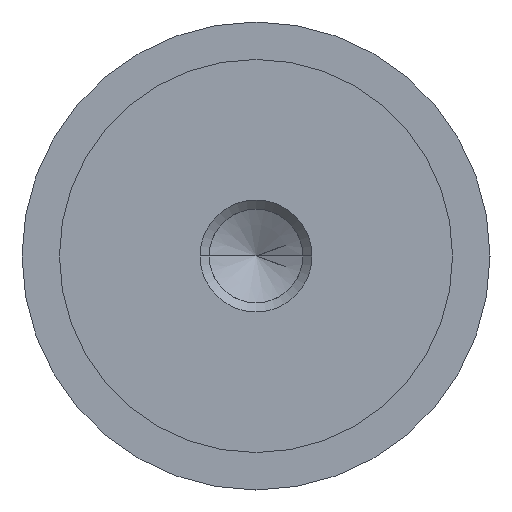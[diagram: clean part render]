
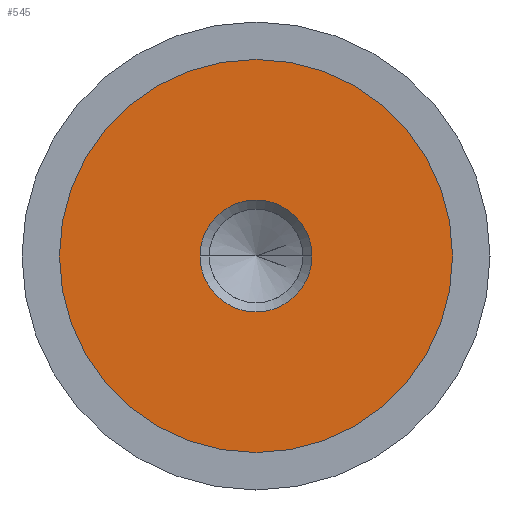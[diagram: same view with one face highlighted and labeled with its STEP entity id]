
A CAD part, left-side view. The second image highlights one B-rep face of the part: STEP entity #545.
In plain terms, the highlighted planar face has unit normal (-1, 0, 0).
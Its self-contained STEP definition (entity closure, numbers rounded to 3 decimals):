
#2 = AXIS2_PLACEMENT_3D ( 'NONE', #345, #634, #281 ) ;
#8 = ORIENTED_EDGE ( 'NONE', *, *, #414, .T. ) ;
#18 = CIRCLE ( 'NONE', #295, 10.5 ) ;
#75 = CARTESIAN_POINT ( 'NONE',  ( -14.99, 2.99, 0. ) ) ;
#78 = CARTESIAN_POINT ( 'NONE',  ( -14.99, 0., -10.5 ) ) ;
#100 = CARTESIAN_POINT ( 'NONE',  ( -14.99, 0., 10.5 ) ) ;
#104 = DIRECTION ( 'NONE',  ( 1., 0., 0. ) ) ;
#139 = DIRECTION ( 'NONE',  ( 1., 0., 0. ) ) ;
#189 = DIRECTION ( 'NONE',  ( 0., 0., 1. ) ) ;
#201 = PLANE ( 'NONE',  #722 ) ;
#214 = CARTESIAN_POINT ( 'NONE',  ( -14.99, 10.5, 0. ) ) ;
#230 = DIRECTION ( 'NONE',  ( 0., 0., -1. ) ) ;
#239 = CIRCLE ( 'NONE', #400, 2.99 ) ;
#260 = VERTEX_POINT ( 'NONE', #78 ) ;
#274 = VERTEX_POINT ( 'NONE', #75 ) ;
#281 = DIRECTION ( 'NONE',  ( 0., 0., 1. ) ) ;
#295 = AXIS2_PLACEMENT_3D ( 'NONE', #382, #672, #189 ) ;
#302 = EDGE_CURVE ( 'NONE', #753, #260, #18, .T. ) ;
#318 = CIRCLE ( 'NONE', #2, 10.5 ) ;
#344 = EDGE_LOOP ( 'NONE', ( #8, #436 ) ) ;
#345 = CARTESIAN_POINT ( 'NONE',  ( -14.99, 0., 0. ) ) ;
#382 = CARTESIAN_POINT ( 'NONE',  ( -14.99, 0., 0. ) ) ;
#400 = AXIS2_PLACEMENT_3D ( 'NONE', #459, #104, #230 ) ;
#414 = EDGE_CURVE ( 'NONE', #458, #274, #665, .T. ) ;
#420 = CARTESIAN_POINT ( 'NONE',  ( -14.99, 0., 0. ) ) ;
#429 = DIRECTION ( 'NONE',  ( 1., 0., 0. ) ) ;
#436 = ORIENTED_EDGE ( 'NONE', *, *, #680, .T. ) ;
#454 = DIRECTION ( 'NONE',  ( 0., 0., -1. ) ) ;
#458 = VERTEX_POINT ( 'NONE', #494 ) ;
#459 = CARTESIAN_POINT ( 'NONE',  ( -14.99, 0., 0. ) ) ;
#462 = AXIS2_PLACEMENT_3D ( 'NONE', #420, #429, #657 ) ;
#494 = CARTESIAN_POINT ( 'NONE',  ( -14.99, -2.99, 0. ) ) ;
#545 = ADVANCED_FACE ( 'NONE', ( #604, #679 ), #201, .F. ) ;
#604 = FACE_BOUND ( 'NONE', #344, .T. ) ;
#634 = DIRECTION ( 'NONE',  ( -1., 0., 0. ) ) ;
#657 = DIRECTION ( 'NONE',  ( 0., 0., -1. ) ) ;
#665 = CIRCLE ( 'NONE', #462, 2.99 ) ;
#672 = DIRECTION ( 'NONE',  ( -1., 0., 0. ) ) ;
#675 = EDGE_LOOP ( 'NONE', ( #762, #750 ) ) ;
#679 = FACE_OUTER_BOUND ( 'NONE', #675, .T. ) ;
#680 = EDGE_CURVE ( 'NONE', #274, #458, #239, .T. ) ;
#722 = AXIS2_PLACEMENT_3D ( 'NONE', #214, #139, #454 ) ;
#750 = ORIENTED_EDGE ( 'NONE', *, *, #776, .T. ) ;
#753 = VERTEX_POINT ( 'NONE', #100 ) ;
#762 = ORIENTED_EDGE ( 'NONE', *, *, #302, .T. ) ;
#776 = EDGE_CURVE ( 'NONE', #260, #753, #318, .T. ) ;
